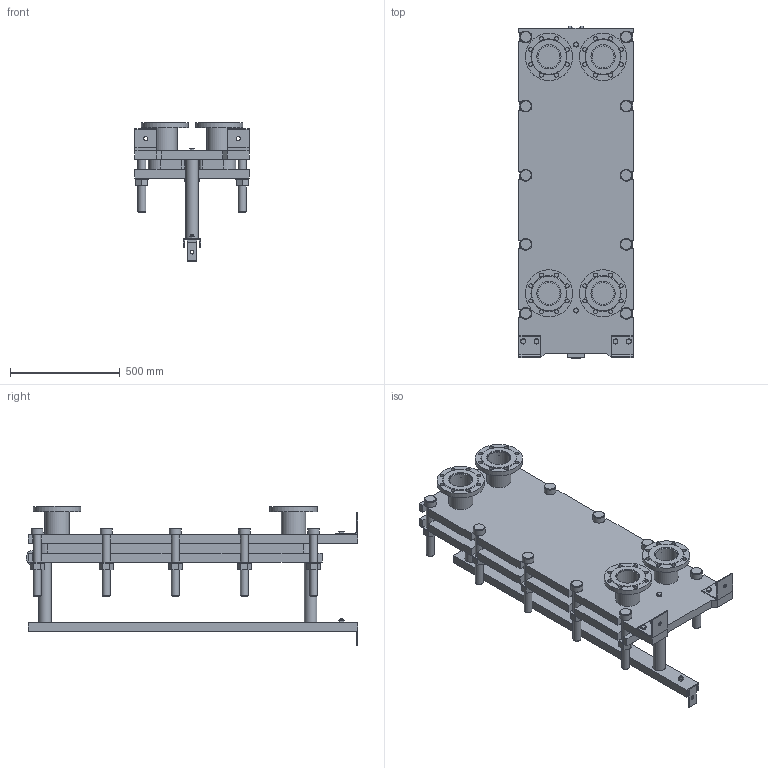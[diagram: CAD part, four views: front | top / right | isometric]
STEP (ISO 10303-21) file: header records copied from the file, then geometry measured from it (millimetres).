
FILE_DESCRIPTION(/* description */ (''),/* implementation_level */ '2;1');
FILE_NAME(/* name */ 'C:\Users\zhuro\Desktop\ENCO\TO\ЭН-04\ЭН-0,5-04-13-1.stp',/* time_stamp */ '2022-06-06T10:45:24+03:00',/* author */ ('zhuro'),/* organization */ (''),/* preprocessor_version */ 'ST-DEVELOPER v18.1',/* originating_system */ 'Autodesk Inventor 2022',/* authorisation */ '');
FILE_SCHEMA (('AUTOMOTIVE_DESIGN { 1 0 10303 214 3 1 1 }'));
Length unit declared in the file: millimetre
Products named in the file (1): ЭН-0,5-04-13-1
Bounding box: 520 x 1510 x 636.5 mm (x, y, z)
Volume: 88936559.9 mm3; surface area: 6442123.7 mm2
Topology: 45 solids, 45 shells, 668 faces, 1611 edges, 1048 vertices
Faces by surface type: plane 457, cylinder 166, cone 39, torus 6
Full cylindrical faces by diameter (mm): 8 x4, 10 x2, 16 x8, 18 x35, 36 x25, 40 x2, 42 x1, 45 x4, 54 x10, 57 x2, 60 x10, 68 x2, 100 x4, 110 x8, 215 x4
Entity records: 23607 total; most frequent: CARTESIAN_POINT 7348, DIRECTION 3371, ORIENTED_EDGE 3142, EDGE_CURVE 1571, AXIS2_PLACEMENT_3D 1199, VERTEX_POINT 1044, LINE 973, VECTOR 973
